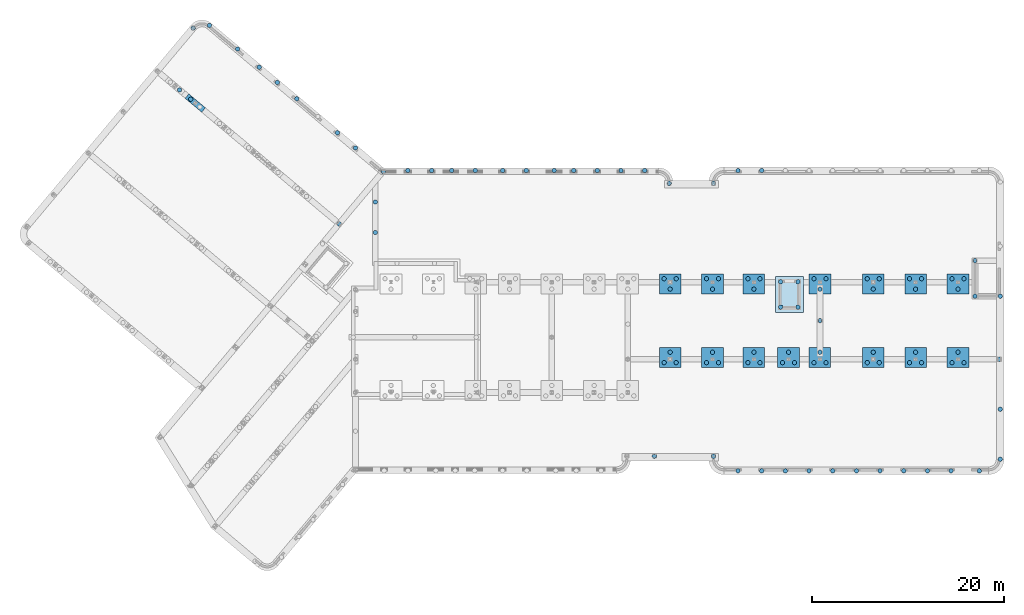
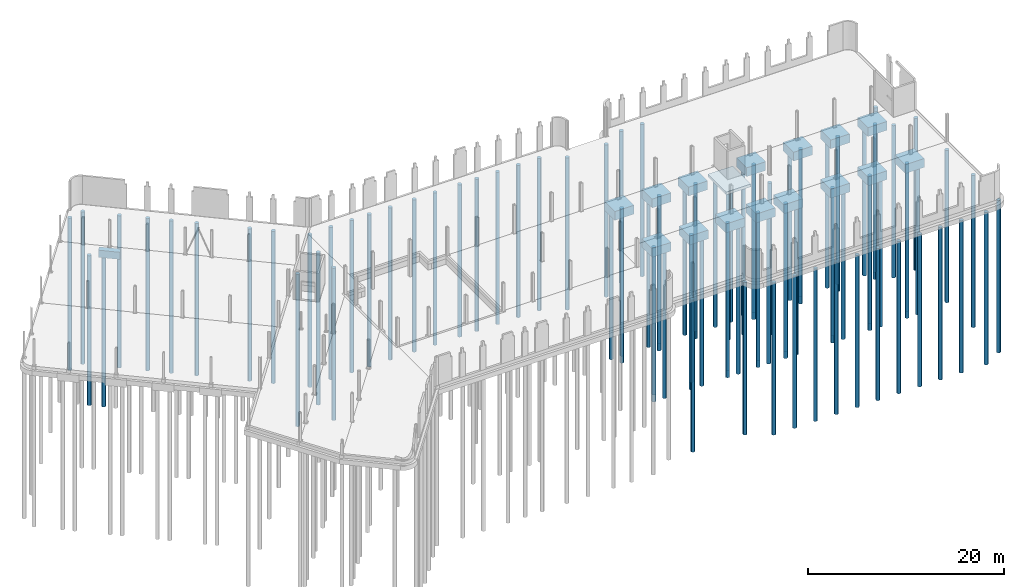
# One storey, part 3 of 26: 98 piles, 17 footings.
"""IFC2X3 building model written with IfcOpenShell, lengths in millimetres."""

from ifc_helpers import new_model, entity, si_unit, converted_unit, derived_unit, direction, frame, frame_2d, origin, origin_2d_with_axis, place, context, subcontext, project, spatial, rectangle, circle, extrude, source, transform, mapped, material, layer, layer_set, layer_usage, type_object, type_shapes, element, save


model = new_model("IFC2X3")

# Units and contexts
model_context = context("Model", 3, precision=0.01, world=origin(), true_north=direction((6.123031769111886e-17, 1.0)))
body_context = subcontext(model_context, "Body", "Model", "MODEL_VIEW")
ifc_project = project(units=[si_unit("LENGTHUNIT", "METRE", prefix="MILLI"), si_unit("AREAUNIT", "SQUARE_METRE"), si_unit("VOLUMEUNIT", "CUBIC_METRE"), derived_unit("MASSDENSITYUNIT", [(si_unit("MASSUNIT", "GRAM", prefix="KILO"), 1), (si_unit("LENGTHUNIT", "METRE"), -3)]), si_unit("MASSUNIT", "GRAM", prefix="KILO"), converted_unit("PLANEANGLEUNIT", "DEGREE", entity("IfcPlaneAngleMeasure", 0.017453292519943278), si_unit("PLANEANGLEUNIT", "RADIAN"), dimensions=[0, 0, 0, 0, 0, 0, 0])], contexts=[model_context])

# Site, building, storey
site_placement = place(None, origin())
site = spatial("IfcSite", under=ifc_project, at=site_placement, Name="Default", CompositionType="ELEMENT")
building_placement = place(site_placement, origin())
building = spatial("IfcBuilding", under=site, at=building_placement, Name="AT constructie", CompositionType="ELEMENT")
storey_placement = place(building_placement, origin())
storey = spatial("IfcBuildingStorey", under=building, at=storey_placement, Name="00 begane grond", CompositionType="ELEMENT", Elevation=-1.0828671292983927e-12)

# Footings
ifc_material_1 = material(Name="f2_beton ihwg_gen")
ifc_layer = layer(ifc_material_1, 350.0)
ifc_layer_set = layer_set([ifc_layer], Name="Foundation Slab:NLRS_13_SFO_fundatievloer_350_gen_AT")
ifc_layer_usage = layer_usage(ifc_layer_set, "AXIS3", "POSITIVE", 0.0)
type_product_1 = type_object("IfcTypeProduct", Name="NLRS_13_SFO_fundatievloer_350_gen_AT", material=ifc_layer_set)
footing_1_placement = place(storey_placement, origin())
element("IfcFooting", 1, at=footing_1_placement, inside=storey, type_object=type_product_1, material=ifc_layer_usage, Name="Foundation Slab:NLRS_13_SFO_fundatievloer_350_gen_AT", ObjectType="Foundation Slab:NLRS_13_SFO_fundatievloer_350_gen_AT", PredefinedType="NOTDEFINED", context=body_context, shape_type="SweptSolid", body=[
    extrude(rectangle(XDim=3722.0000000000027, YDim=2899.999999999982, at=frame_2d((-4.320099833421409e-12, -8.640199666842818e-12), x_axis=(1.0, 0.0))), frame((86230.87463111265, 29996.043508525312, -1200.0), z_axis=(0.0, 0.0, -1.0), x_axis=(0.0, 1.0, 0.0)), (0.0, 0.0, 1.0), 350.0),
])
type_product_2 = type_object("IfcTypeProduct", Name="fundatiepoer_gen_lxbxh 2250x600x900", material=ifc_material_1)
shared_shape_1 = source(origin(), body_context, "Body", "SweptSolid", [
    extrude(rectangle(XDim=599.9999999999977, YDim=2249.999999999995, at=frame_2d((-1.3926637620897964e-12, 1.7053025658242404e-12), x_axis=(1.0, 0.0))), frame((24509.580937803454, 49879.84254117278, -1350.0), z_axis=(0.0, 0.0, 1.0), x_axis=(-0.6427876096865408, -0.7660444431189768, 0.0)), (0.0, 0.0, 1.0), 899.9999999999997),
])
type_shapes(type_product_2, [shared_shape_1])
footing_2_placement = place(storey_placement, origin())
element("IfcFooting", 2, at=footing_2_placement, inside=storey, type_object=type_product_2, material=ifc_material_1, Name="NLRS_16_SFO_fundatiepoer_gen_AT:fundatiepoer_gen_lxbxh 2250x600x900", ObjectType="NLRS_16_SFO_fundatiepoer_gen_AT:fundatiepoer_gen_lxbxh 2250x600x900", PredefinedType="NOTDEFINED", context=body_context, shape_type="MappedRepresentation", body=[
    mapped(shared_shape_1, transform((0.0, 0.0, 0.0), scale=1.0)),
])
type_product_3 = type_object("IfcTypeProduct", Name="fundatiepoer_gen_lxbxh 2250x2100x1100", material=ifc_material_1)
shared_shape_2 = source(origin(), body_context, "Body", "SweptSolid", [
    extrude(rectangle(XDim=2249.9999999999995, YDim=2099.999999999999, at=frame_2d((4.320099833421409e-12, 0.0), x_axis=(1.0, 0.0))), frame((73846.87463111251, 31081.88742676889, -1650.0), z_axis=(0.0, 0.0, 1.0), x_axis=(-1.0, 0.0, 0.0)), (0.0, 0.0, 1.0), 1100.0),
])
type_shapes(type_product_3, [shared_shape_2])
footing_3_placement = place(storey_placement, origin())
element("IfcFooting", 3, at=footing_3_placement, inside=storey, type_object=type_product_3, material=ifc_material_1, Name="NLRS_16_SFO_fundatiepoer_gen_AT:fundatiepoer_gen_lxbxh 2250x2100x1100", ObjectType="NLRS_16_SFO_fundatiepoer_gen_AT:fundatiepoer_gen_lxbxh 2250x2100x1100", PredefinedType="NOTDEFINED", context=body_context, shape_type="MappedRepresentation", body=[
    mapped(shared_shape_2, transform((0.0, 0.0, 0.0), scale=1.0)),
])

# Piles
ifc_material_2 = material(Name="f2_beton ihwg_C30/37")
type_product_4 = type_object("IfcTypeProduct", Name="Type 4_a-3", material=ifc_material_2)
shared_shape_3 = source(origin(), body_context, "Body", "SweptSolid", [
    extrude(circle(Radius=225.00000000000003, at=frame_2d((1.4426688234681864e-26, -3.634975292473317e-13), x_axis=(1.0, 0.0))), frame((0.0, 0.0, -18420.0)), (0.0, 0.0, 1.0), 18419.999999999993),
])
type_shapes(type_product_4, [shared_shape_3])
for number, where, name in (
    (4, (74471.87463111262, 31631.88742676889, -1630.0), "NLRS_17_SFO_fundatiepaal_rond_gen_AT:Type 4_a-3"),
    (5, (73221.87463111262, 31631.887426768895, -1630.0), "NLRS_17_SFO_fundatiepaal_rond_gen_AT:Type 4_a-3"),
    (6, (73846.8746311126, 30549.355672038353, -1630.0), "NLRS_17_SFO_fundatiepaal_rond_gen_AT:Type 4_a-3"),
    (7, (78871.8746311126, 31631.887426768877, -1630.0), "NLRS_17_SFO_fundatiepaal_rond_gen_AT:Type 4_a-3"),
    (8, (77621.87463111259, 31631.88742676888, -1630.0), "NLRS_17_SFO_fundatiepaal_rond_gen_AT:Type 4_a-3"),
    (9, (83171.87463111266, 31631.887426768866, -1630.0), "NLRS_17_SFO_fundatiepaal_rond_gen_AT:Type 4_a-3"),
    (10, (81921.87463111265, 31631.88742676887, -1630.0), "NLRS_17_SFO_fundatiepaal_rond_gen_AT:Type 4_a-3"),
    (11, (78246.87463111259, 30549.35567203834, -1630.0), "NLRS_17_SFO_fundatiepaal_rond_gen_AT:Type 4_a-3"),
    (12, (82546.87463111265, 30549.355672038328, -1630.0), "NLRS_17_SFO_fundatiepaal_rond_gen_AT:Type 4_a-3"),
    (13, (90037.37463111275, 31631.887426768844, -1630.0), "NLRS_17_SFO_fundatiepaal_rond_gen_AT:Type 4_a-3"),
    (14, (88787.37463111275, 31631.887426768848, -1630.0), "NLRS_17_SFO_fundatiepaal_rond_gen_AT:Type 4_a-3"),
    (15, (89412.37463111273, 30549.355672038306, -1630.0), "NLRS_17_SFO_fundatiepaal_rond_gen_AT:Type 4_a-3"),
    (16, (95571.87463111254, 31631.887426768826, -1630.0), "NLRS_17_SFO_fundatiepaal_rond_gen_AT:Type 4_a-3"),
    (17, (94321.87463111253, 31631.88742676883, -1630.0), "NLRS_17_SFO_fundatiepaal_rond_gen_AT:Type 4_a-3"),
    (18, (94946.87463111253, 30549.355672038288, -1630.0), "NLRS_17_SFO_fundatiepaal_rond_gen_AT:Type 4_a-3"),
    (19, (99971.87463111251, 31631.88742676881, -1630.0), "NLRS_17_SFO_fundatiepaal_rond_gen_AT:Type 4_a-3"),
    (20, (98721.8746311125, 31631.88742676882, -1630.0), "NLRS_17_SFO_fundatiepaal_rond_gen_AT:Type 4_a-3"),
    (21, (99346.8746311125, 30549.355672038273, -1630.0), "NLRS_17_SFO_fundatiepaal_rond_gen_AT:Type 4_a-3"),
    (22, (104371.8746311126, 31631.8874267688, -1630.0), "NLRS_17_SFO_fundatiepaal_rond_gen_AT:Type 4_a-3"),
    (23, (103121.87463111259, 31631.887426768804, -1630.0), "NLRS_17_SFO_fundatiepaal_rond_gen_AT:Type 4_a-3"),
    (24, (103746.87463111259, 30549.355672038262, -1630.0), "NLRS_17_SFO_fundatiepaal_rond_gen_AT:Type 4_a-3"),
):
    element("IfcPile", number, at=place(storey_placement, frame(where)), inside=storey, type_object=type_product_4, material=ifc_material_2, Name=name, ObjectType="NLRS_17_SFO_fundatiepaal_rond_gen_AT:Type 4_a-3", PredefinedType="NOTDEFINED", context=body_context, shape_type="MappedRepresentation", body=[
        mapped(shared_shape_3, transform((0.0, 0.0, 0.0), scale=1.0)),
    ])
for number, where, z_axis, x_axis, name in (
    (25, (103121.87463111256, 22910.199590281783, -1630.0), (0.0, 0.0, 1.0), (-1.0, 0.0, 0.0), "NLRS_17_SFO_fundatiepaal_rond_gen_AT:Type 4_a-3"),
    (26, (104371.87463111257, 22910.19959028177, -1630.0), (0.0, 0.0, 1.0), (-1.0, 0.0, 0.0), "NLRS_17_SFO_fundatiepaal_rond_gen_AT:Type 4_a-3"),
    (27, (103746.87463111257, 23992.731345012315, -1630.0), (0.0, 0.0, 1.0), (-1.0, 0.0, 0.0), "NLRS_17_SFO_fundatiepaal_rond_gen_AT:Type 4_a-3"),
    (28, (98721.87463111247, 22910.199590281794, -1630.0), (0.0, 0.0, 1.0), (-1.0, 0.0, 0.0), "NLRS_17_SFO_fundatiepaal_rond_gen_AT:Type 4_a-3"),
    (29, (99971.87463111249, 22910.199590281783, -1630.0), (0.0, 0.0, 1.0), (-1.0, 0.0, 0.0), "NLRS_17_SFO_fundatiepaal_rond_gen_AT:Type 4_a-3"),
    (30, (99346.87463111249, 23992.73134501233, -1630.0), (0.0, 0.0, 1.0), (-1.0, 0.0, 0.0), "NLRS_17_SFO_fundatiepaal_rond_gen_AT:Type 4_a-3"),
    (31, (94321.8746311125, 22910.19959028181, -1630.0), (0.0, 0.0, 1.0), (-1.0, 0.0, 0.0), "NLRS_17_SFO_fundatiepaal_rond_gen_AT:Type 4_a-3"),
    (32, (95571.87463111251, 22910.199590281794, -1630.0), (0.0, 0.0, 1.0), (-1.0, 0.0, 0.0), "NLRS_17_SFO_fundatiepaal_rond_gen_AT:Type 4_a-3"),
    (33, (94946.87463111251, 23992.731345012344, -1630.0), (0.0, 0.0, 1.0), (-1.0, 0.0, 0.0), "NLRS_17_SFO_fundatiepaal_rond_gen_AT:Type 4_a-3"),
    (34, (88782.37463111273, 22910.199590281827, -1630.0), (0.0, 0.0, 1.0), (-1.0, 0.0, 0.0), "NLRS_17_SFO_fundatiepaal_rond_gen_AT:Type 4_a-3"),
    (35, (90032.37463111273, 22910.199590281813, -1630.0), (0.0, 0.0, 1.0), (-1.0, 0.0, 0.0), "NLRS_17_SFO_fundatiepaal_rond_gen_AT:Type 4_a-3"),
    (36, (89407.37463111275, 23992.73134501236, -1630.0), (0.0, 0.0, 1.0), (-1.0, 0.0, 0.0), "NLRS_17_SFO_fundatiepaal_rond_gen_AT:Type 4_a-3"),
    (37, (85521.87463111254, 22910.199590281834, -1630.0), (0.0, 0.0, 1.0), (-1.0, 0.0, 0.0), "NLRS_17_SFO_fundatiepaal_rond_gen_AT:Type 4_a-3"),
    (38, (86771.87463111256, 22910.19959028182, -1630.0), (0.0, 0.0, 1.0), (-1.0, 0.0, 0.0), "NLRS_17_SFO_fundatiepaal_rond_gen_AT:Type 4_a-3"),
    (39, (86146.87463111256, 23992.73134501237, -1630.0), (0.0, 0.0, 1.0), (-1.0, 0.0, 0.0), "NLRS_17_SFO_fundatiepaal_rond_gen_AT:Type 4_a-3"),
    (40, (81921.8746311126, 22910.19959028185, -1630.0), (0.0, 0.0, 1.0), (-1.0, 0.0, 0.0), "NLRS_17_SFO_fundatiepaal_rond_gen_AT:Type 4_a-3"),
    (41, (83171.8746311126, 22910.199590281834, -1630.0), (0.0, 0.0, 1.0), (-1.0, 0.0, 0.0), "NLRS_17_SFO_fundatiepaal_rond_gen_AT:Type 4_a-3"),
    (42, (82546.87463111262, 23992.73134501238, -1630.0), (0.0, 0.0, 1.0), (-1.0, 0.0, 0.0), "NLRS_17_SFO_fundatiepaal_rond_gen_AT:Type 4_a-3"),
    (43, (77621.87463111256, 22910.19959028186, -1630.0), (0.0, 0.0, 1.0), (-1.0, 0.0, 0.0), "NLRS_17_SFO_fundatiepaal_rond_gen_AT:Type 4_a-3"),
    (44, (78871.87463111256, 22910.19959028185, -1630.0), (0.0, 0.0, 1.0), (-1.0, 0.0, 0.0), "NLRS_17_SFO_fundatiepaal_rond_gen_AT:Type 4_a-3"),
    (45, (78246.87463111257, 23992.731345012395, -1630.0), (0.0, 0.0, 1.0), (-1.0, 0.0, 0.0), "NLRS_17_SFO_fundatiepaal_rond_gen_AT:Type 4_a-3"),
    (46, (73221.87463111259, 22910.199590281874, -1630.0), (0.0, 0.0, 1.0), (-1.0, 0.0, 0.0), "NLRS_17_SFO_fundatiepaal_rond_gen_AT:Type 4_a-3"),
    (47, (74471.87463111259, 22910.19959028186, -1630.0), (0.0, 0.0, 1.0), (-1.0, 0.0, 0.0), "NLRS_17_SFO_fundatiepaal_rond_gen_AT:Type 4_a-3"),
    (48, (73846.8746311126, 23992.731345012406, -1630.0), (0.0, 0.0, 1.0), (-1.0, 0.0, 0.0), "NLRS_17_SFO_fundatiepaal_rond_gen_AT:Type 4_a-3"),
):
    element("IfcPile", number, at=place(storey_placement, frame(where, z_axis=z_axis, x_axis=x_axis)), inside=storey, type_object=type_product_4, material=ifc_material_2, Name=name, ObjectType="NLRS_17_SFO_fundatiepaal_rond_gen_AT:Type 4_a-3", PredefinedType="NOTDEFINED", context=body_context, shape_type="MappedRepresentation", body=[
        mapped(shared_shape_3, transform((0.0, 0.0, 0.0), scale=1.0)),
    ])

# Footings
type_product_5 = type_object("IfcTypeProduct", Name="fundatiepoer_gen_lxbxh 2250x2100x1100", material=ifc_material_1)
shared_shape_4 = source(origin(), body_context, "Body", "SweptSolid", [
    extrude(rectangle(XDim=2250.000000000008, YDim=2099.999999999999, at=frame_2d((0.0, -4.320099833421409e-12), x_axis=(1.0, 0.0))), frame((78246.87463111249, 31081.887426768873, -1650.0), z_axis=(0.0, 0.0, 1.0), x_axis=(-1.0, 0.0, 0.0)), (0.0, 0.0, 1.0), 1100.0),
])
type_shapes(type_product_5, [shared_shape_4])
footing_4_placement = place(storey_placement, origin())
element("IfcFooting", 49, at=footing_4_placement, inside=storey, type_object=type_product_5, material=ifc_material_1, Name="NLRS_16_SFO_fundatiepoer_gen_AT:fundatiepoer_gen_lxbxh 2250x2100x1100", ObjectType="NLRS_16_SFO_fundatiepoer_gen_AT:fundatiepoer_gen_lxbxh 2250x2100x1100", PredefinedType="NOTDEFINED", context=body_context, shape_type="MappedRepresentation", body=[
    mapped(shared_shape_4, transform((0.0, 0.0, 0.0), scale=1.0)),
])
type_product_6 = type_object("IfcTypeProduct", Name="fundatiepoer_gen_lxbxh 2250x2100x1100", material=ifc_material_1)
shared_shape_5 = source(origin(), body_context, "Body", "SweptSolid", [
    extrude(rectangle(XDim=2250.000000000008, YDim=2099.999999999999, at=origin_2d_with_axis()), frame((82546.87463111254, 31081.887426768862, -1650.0), z_axis=(0.0, 0.0, 1.0), x_axis=(-1.0, 0.0, 0.0)), (0.0, 0.0, 1.0), 1100.0000000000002),
])
type_shapes(type_product_6, [shared_shape_5])
footing_5_placement = place(storey_placement, origin())
element("IfcFooting", 50, at=footing_5_placement, inside=storey, type_object=type_product_6, material=ifc_material_1, Name="NLRS_16_SFO_fundatiepoer_gen_AT:fundatiepoer_gen_lxbxh 2250x2100x1100", ObjectType="NLRS_16_SFO_fundatiepoer_gen_AT:fundatiepoer_gen_lxbxh 2250x2100x1100", PredefinedType="NOTDEFINED", context=body_context, shape_type="MappedRepresentation", body=[
    mapped(shared_shape_5, transform((0.0, 0.0, 0.0), scale=1.0)),
])
type_product_7 = type_object("IfcTypeProduct", Name="fundatiepoer_gen_lxbxh 2250x2100x1100", material=ifc_material_1)
shared_shape_6 = source(origin(), body_context, "Body", "SweptSolid", [
    extrude(rectangle(XDim=2250.000000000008, YDim=2099.999999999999, at=frame_2d((0.0, -4.320099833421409e-12), x_axis=(1.0, 0.0))), frame((89412.37463111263, 31081.887426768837, -1650.0), z_axis=(0.0, 0.0, 1.0), x_axis=(-1.0, 0.0, 0.0)), (0.0, 0.0, 1.0), 1100.0),
])
type_shapes(type_product_7, [shared_shape_6])
footing_6_placement = place(storey_placement, origin())
element("IfcFooting", 51, at=footing_6_placement, inside=storey, type_object=type_product_7, material=ifc_material_1, Name="NLRS_16_SFO_fundatiepoer_gen_AT:fundatiepoer_gen_lxbxh 2250x2100x1100", ObjectType="NLRS_16_SFO_fundatiepoer_gen_AT:fundatiepoer_gen_lxbxh 2250x2100x1100", PredefinedType="NOTDEFINED", context=body_context, shape_type="MappedRepresentation", body=[
    mapped(shared_shape_6, transform((0.0, 0.0, 0.0), scale=1.0)),
])
type_product_8 = type_object("IfcTypeProduct", Name="fundatiepoer_gen_lxbxh 2250x2100x1100", material=ifc_material_1)
shared_shape_7 = source(origin(), body_context, "Body", "SweptSolid", [
    extrude(rectangle(XDim=2250.000000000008, YDim=2099.999999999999, at=frame_2d((0.0, 4.320099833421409e-12), x_axis=(1.0, 0.0))), frame((94946.87463111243, 31081.88742676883, -1650.0), z_axis=(0.0, 0.0, 1.0), x_axis=(-1.0, 0.0, 0.0)), (0.0, 0.0, 1.0), 1100.0),
])
type_shapes(type_product_8, [shared_shape_7])
footing_7_placement = place(storey_placement, origin())
element("IfcFooting", 52, at=footing_7_placement, inside=storey, type_object=type_product_8, material=ifc_material_1, Name="NLRS_16_SFO_fundatiepoer_gen_AT:fundatiepoer_gen_lxbxh 2250x2100x1100", ObjectType="NLRS_16_SFO_fundatiepoer_gen_AT:fundatiepoer_gen_lxbxh 2250x2100x1100", PredefinedType="NOTDEFINED", context=body_context, shape_type="MappedRepresentation", body=[
    mapped(shared_shape_7, transform((0.0, 0.0, 0.0), scale=1.0)),
])
type_product_9 = type_object("IfcTypeProduct", Name="fundatiepoer_gen_lxbxh 2250x2100x1100", material=ifc_material_1)
shared_shape_8 = source(origin(), body_context, "Body", "SweptSolid", [
    extrude(rectangle(XDim=2250.000000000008, YDim=2099.999999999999, at=origin_2d_with_axis()), frame((99346.8746311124, 31081.88742676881, -1650.0), z_axis=(0.0, 0.0, 1.0), x_axis=(-1.0, 0.0, 0.0)), (0.0, 0.0, 1.0), 1100.0),
])
type_shapes(type_product_9, [shared_shape_8])
footing_8_placement = place(storey_placement, origin())
element("IfcFooting", 53, at=footing_8_placement, inside=storey, type_object=type_product_9, material=ifc_material_1, Name="NLRS_16_SFO_fundatiepoer_gen_AT:fundatiepoer_gen_lxbxh 2250x2100x1100", ObjectType="NLRS_16_SFO_fundatiepoer_gen_AT:fundatiepoer_gen_lxbxh 2250x2100x1100", PredefinedType="NOTDEFINED", context=body_context, shape_type="MappedRepresentation", body=[
    mapped(shared_shape_8, transform((0.0, 0.0, 0.0), scale=1.0)),
])
type_product_10 = type_object("IfcTypeProduct", Name="fundatiepoer_gen_lxbxh 2250x2100x1100", material=ifc_material_1)
shared_shape_9 = source(origin(), body_context, "Body", "SweptSolid", [
    extrude(rectangle(XDim=2250.000000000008, YDim=2099.999999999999, at=origin_2d_with_axis()), frame((103746.87463111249, 31081.8874267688, -1650.0), z_axis=(0.0, 0.0, 1.0), x_axis=(-1.0, 0.0, 0.0)), (0.0, 0.0, 1.0), 1100.0),
])
type_shapes(type_product_10, [shared_shape_9])
footing_9_placement = place(storey_placement, origin())
element("IfcFooting", 54, at=footing_9_placement, inside=storey, type_object=type_product_10, material=ifc_material_1, Name="NLRS_16_SFO_fundatiepoer_gen_AT:fundatiepoer_gen_lxbxh 2250x2100x1100", ObjectType="NLRS_16_SFO_fundatiepoer_gen_AT:fundatiepoer_gen_lxbxh 2250x2100x1100", PredefinedType="NOTDEFINED", context=body_context, shape_type="MappedRepresentation", body=[
    mapped(shared_shape_9, transform((0.0, 0.0, 0.0), scale=1.0)),
])
type_product_11 = type_object("IfcTypeProduct", Name="fundatiepoer_gen_lxbxh 2250x2100x1100", material=ifc_material_1)
shared_shape_10 = source(origin(), body_context, "Body", "SweptSolid", [
    extrude(rectangle(XDim=2250.000000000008, YDim=2099.999999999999, at=frame_2d((-8.753886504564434e-12, 0.0), x_axis=(1.0, 0.0))), frame((103746.87463111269, 23460.19959028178, -1650.0)), (0.0, 0.0, 1.0), 1100.0),
])
type_shapes(type_product_11, [shared_shape_10])
footing_10_placement = place(storey_placement, origin())
element("IfcFooting", 55, at=footing_10_placement, inside=storey, type_object=type_product_11, material=ifc_material_1, Name="NLRS_16_SFO_fundatiepoer_gen_AT:fundatiepoer_gen_lxbxh 2250x2100x1100", ObjectType="NLRS_16_SFO_fundatiepoer_gen_AT:fundatiepoer_gen_lxbxh 2250x2100x1100", PredefinedType="NOTDEFINED", context=body_context, shape_type="MappedRepresentation", body=[
    mapped(shared_shape_10, transform((0.0, 0.0, 0.0), scale=1.0)),
])
type_product_12 = type_object("IfcTypeProduct", Name="fundatiepoer_gen_lxbxh 2250x2100x1100", material=ifc_material_1)
shared_shape_11 = source(origin(), body_context, "Body", "SweptSolid", [
    extrude(rectangle(XDim=2250.000000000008, YDim=2099.999999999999, at=frame_2d((-8.753886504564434e-12, 0.0), x_axis=(1.0, 0.0))), frame((99346.8746311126, 23460.19959028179, -1650.0)), (0.0, 0.0, 1.0), 1100.0),
])
type_shapes(type_product_12, [shared_shape_11])
footing_11_placement = place(storey_placement, origin())
element("IfcFooting", 56, at=footing_11_placement, inside=storey, type_object=type_product_12, material=ifc_material_1, Name="NLRS_16_SFO_fundatiepoer_gen_AT:fundatiepoer_gen_lxbxh 2250x2100x1100", ObjectType="NLRS_16_SFO_fundatiepoer_gen_AT:fundatiepoer_gen_lxbxh 2250x2100x1100", PredefinedType="NOTDEFINED", context=body_context, shape_type="MappedRepresentation", body=[
    mapped(shared_shape_11, transform((0.0, 0.0, 0.0), scale=1.0)),
])
type_product_13 = type_object("IfcTypeProduct", Name="fundatiepoer_gen_lxbxh 2250x2100x1100", material=ifc_material_1)
shared_shape_12 = source(origin(), body_context, "Body", "SweptSolid", [
    extrude(rectangle(XDim=2250.000000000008, YDim=2099.999999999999, at=frame_2d((-8.753886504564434e-12, 0.0), x_axis=(1.0, 0.0))), frame((94946.87463111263, 23460.199590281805, -1650.0)), (0.0, 0.0, 1.0), 1100.0),
])
type_shapes(type_product_13, [shared_shape_12])
footing_12_placement = place(storey_placement, origin())
element("IfcFooting", 57, at=footing_12_placement, inside=storey, type_object=type_product_13, material=ifc_material_1, Name="NLRS_16_SFO_fundatiepoer_gen_AT:fundatiepoer_gen_lxbxh 2250x2100x1100", ObjectType="NLRS_16_SFO_fundatiepoer_gen_AT:fundatiepoer_gen_lxbxh 2250x2100x1100", PredefinedType="NOTDEFINED", context=body_context, shape_type="MappedRepresentation", body=[
    mapped(shared_shape_12, transform((0.0, 0.0, 0.0), scale=1.0)),
])
type_product_14 = type_object("IfcTypeProduct", Name="fundatiepoer_gen_lxbxh 2250x2100x1100", material=ifc_material_1)
shared_shape_13 = source(origin(), body_context, "Body", "SweptSolid", [
    extrude(rectangle(XDim=2250.000000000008, YDim=2099.999999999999, at=frame_2d((-8.753886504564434e-12, 0.0), x_axis=(1.0, 0.0))), frame((89407.37463111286, 23460.199590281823, -1650.0)), (0.0, 0.0, 1.0), 1100.0),
])
type_shapes(type_product_14, [shared_shape_13])
footing_13_placement = place(storey_placement, origin())
element("IfcFooting", 58, at=footing_13_placement, inside=storey, type_object=type_product_14, material=ifc_material_1, Name="NLRS_16_SFO_fundatiepoer_gen_AT:fundatiepoer_gen_lxbxh 2250x2100x1100", ObjectType="NLRS_16_SFO_fundatiepoer_gen_AT:fundatiepoer_gen_lxbxh 2250x2100x1100", PredefinedType="NOTDEFINED", context=body_context, shape_type="MappedRepresentation", body=[
    mapped(shared_shape_13, transform((0.0, 0.0, 0.0), scale=1.0)),
])
type_product_15 = type_object("IfcTypeProduct", Name="fundatiepoer_gen_lxbxh 2250x2100x1100", material=ifc_material_1)
shared_shape_14 = source(origin(), body_context, "Body", "SweptSolid", [
    extrude(rectangle(XDim=2250.000000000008, YDim=2099.999999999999, at=frame_2d((-8.753886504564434e-12, 0.0), x_axis=(1.0, 0.0))), frame((86146.87463111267, 23460.19959028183, -1650.0)), (0.0, 0.0, 1.0), 1100.0),
])
type_shapes(type_product_15, [shared_shape_14])
footing_14_placement = place(storey_placement, origin())
element("IfcFooting", 59, at=footing_14_placement, inside=storey, type_object=type_product_15, material=ifc_material_1, Name="NLRS_16_SFO_fundatiepoer_gen_AT:fundatiepoer_gen_lxbxh 2250x2100x1100", ObjectType="NLRS_16_SFO_fundatiepoer_gen_AT:fundatiepoer_gen_lxbxh 2250x2100x1100", PredefinedType="NOTDEFINED", context=body_context, shape_type="MappedRepresentation", body=[
    mapped(shared_shape_14, transform((0.0, 0.0, 0.0), scale=1.0)),
])
type_product_16 = type_object("IfcTypeProduct", Name="fundatiepoer_gen_lxbxh 2250x2100x1100", material=ifc_material_1)
shared_shape_15 = source(origin(), body_context, "Body", "SweptSolid", [
    extrude(rectangle(XDim=2250.000000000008, YDim=2099.999999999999, at=frame_2d((-8.753886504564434e-12, 0.0), x_axis=(1.0, 0.0))), frame((82546.87463111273, 23460.199590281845, -1650.0)), (0.0, 0.0, 1.0), 1100.0),
])
type_shapes(type_product_16, [shared_shape_15])
footing_15_placement = place(storey_placement, origin())
element("IfcFooting", 60, at=footing_15_placement, inside=storey, type_object=type_product_16, material=ifc_material_1, Name="NLRS_16_SFO_fundatiepoer_gen_AT:fundatiepoer_gen_lxbxh 2250x2100x1100", ObjectType="NLRS_16_SFO_fundatiepoer_gen_AT:fundatiepoer_gen_lxbxh 2250x2100x1100", PredefinedType="NOTDEFINED", context=body_context, shape_type="MappedRepresentation", body=[
    mapped(shared_shape_15, transform((0.0, 0.0, 0.0), scale=1.0)),
])
type_product_17 = type_object("IfcTypeProduct", Name="fundatiepoer_gen_lxbxh 2250x2100x1100", material=ifc_material_1)
shared_shape_16 = source(origin(), body_context, "Body", "SweptSolid", [
    extrude(rectangle(XDim=2250.0, YDim=2099.999999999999, at=frame_2d((-4.433786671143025e-12, 0.0), x_axis=(1.0, 0.0))), frame((78246.87463111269, 23460.199590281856, -1650.0)), (0.0, 0.0, 1.0), 1100.0),
])
type_shapes(type_product_17, [shared_shape_16])
footing_16_placement = place(storey_placement, origin())
element("IfcFooting", 61, at=footing_16_placement, inside=storey, type_object=type_product_17, material=ifc_material_1, Name="NLRS_16_SFO_fundatiepoer_gen_AT:fundatiepoer_gen_lxbxh 2250x2100x1100", ObjectType="NLRS_16_SFO_fundatiepoer_gen_AT:fundatiepoer_gen_lxbxh 2250x2100x1100", PredefinedType="NOTDEFINED", context=body_context, shape_type="MappedRepresentation", body=[
    mapped(shared_shape_16, transform((0.0, 0.0, 0.0), scale=1.0)),
])
type_product_18 = type_object("IfcTypeProduct", Name="fundatiepoer_gen_lxbxh 2250x2100x1100", material=ifc_material_1)
shared_shape_17 = source(origin(), body_context, "Body", "SweptSolid", [
    extrude(rectangle(XDim=2250.0, YDim=2099.999999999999, at=frame_2d((-4.433786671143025e-12, 0.0), x_axis=(1.0, 0.0))), frame((73846.8746311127, 23460.19959028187, -1650.0)), (0.0, 0.0, 1.0), 1100.0),
])
type_shapes(type_product_18, [shared_shape_17])
footing_17_placement = place(storey_placement, origin())
element("IfcFooting", 62, at=footing_17_placement, inside=storey, type_object=type_product_18, material=ifc_material_1, Name="NLRS_16_SFO_fundatiepoer_gen_AT:fundatiepoer_gen_lxbxh 2250x2100x1100", ObjectType="NLRS_16_SFO_fundatiepoer_gen_AT:fundatiepoer_gen_lxbxh 2250x2100x1100", PredefinedType="NOTDEFINED", context=body_context, shape_type="MappedRepresentation", body=[
    mapped(shared_shape_17, transform((0.0, 0.0, 0.0), scale=1.0)),
])

# Piles
type_product_19 = type_object("IfcTypeProduct", Name="Type 4_a-4", material=ifc_material_2)
shared_shape_18 = source(origin(), body_context, "Body", "SweptSolid", [
    extrude(circle(Radius=225.00000000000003, at=frame_2d((1.4426688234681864e-26, -3.634975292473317e-13), x_axis=(1.0, 0.0))), frame((0.0, 0.0, -18520.0)), (0.0, 0.0, 1.0), 18519.999999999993),
])
type_shapes(type_product_19, [shared_shape_18])
for number, where, name in (
    (63, (85323.87463111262, 31314.043508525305, -1530.0), "NLRS_17_SFO_fundatiepaal_rond_gen_AT:Type 4_a-4"),
    (64, (87137.87463111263, 31314.043508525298, -1530.0), "NLRS_17_SFO_fundatiepaal_rond_gen_AT:Type 4_a-4"),
    (65, (87137.87463111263, 28678.043508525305, -1530.0), "NLRS_17_SFO_fundatiepaal_rond_gen_AT:Type 4_a-4"),
    (66, (85323.87463111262, 28678.04350852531, -1530.0), "NLRS_17_SFO_fundatiepaal_rond_gen_AT:Type 4_a-4"),
):
    element("IfcPile", number, at=place(storey_placement, frame(where)), inside=storey, type_object=type_product_19, material=ifc_material_2, Name=name, ObjectType="NLRS_17_SFO_fundatiepaal_rond_gen_AT:Type 4_a-4", PredefinedType="NOTDEFINED", context=body_context, shape_type="MappedRepresentation", body=[
        mapped(shared_shape_18, transform((0.0, 0.0, 0.0), scale=1.0)),
    ])
type_product_20 = type_object("IfcTypeProduct", Name="Type 4_a-6", material=ifc_material_2)
shared_shape_19 = source(origin(), body_context, "Body", "SweptSolid", [
    extrude(circle(Radius=225.00000000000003, at=frame_2d((1.4426688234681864e-26, -3.634975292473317e-13), x_axis=(1.0, 0.0))), frame((0.0, 0.0, -18720.0)), (0.0, 0.0, 1.0), 18719.999999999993),
])
type_shapes(type_product_20, [shared_shape_19])
for number, where, z_axis, x_axis, name in (
    (67, (24030.803160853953, 50281.584797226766, -1330.0), (0.0, 0.0, 1.0), (0.7660444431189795, -0.6427876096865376, 0.0), "NLRS_17_SFO_fundatiepaal_rond_gen_AT:Type 4_a-6"),
    (68, (22877.906273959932, 51248.98014980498, -1330.0), (0.0, 0.0, 1.0), (0.7660444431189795, -0.6427876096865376, 0.0), "NLRS_17_SFO_fundatiepaal_rond_gen_AT:Type 4_a-6"),
):
    element("IfcPile", number, at=place(storey_placement, frame(where, z_axis=z_axis, x_axis=x_axis)), inside=storey, type_object=type_product_20, material=ifc_material_2, Name=name, ObjectType="NLRS_17_SFO_fundatiepaal_rond_gen_AT:Type 4_a-6", PredefinedType="NOTDEFINED", context=body_context, shape_type="MappedRepresentation", body=[
        mapped(shared_shape_19, transform((0.0, 0.0, 0.0), scale=1.0)),
    ])
type_product_21 = type_object("IfcTypeProduct", Name="Type 4_a-7", material=ifc_material_2)
shared_shape_20 = source(origin(), body_context, "Body", "SweptSolid", [
    extrude(circle(Radius=225.00000000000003, at=frame_2d((1.4426688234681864e-26, -3.634975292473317e-13), x_axis=(1.0, 0.0))), frame((0.0, 0.0, -19020.0)), (0.0, 0.0, 1.0), 19019.999999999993),
])
type_shapes(type_product_21, [shared_shape_20])
for number, where, z_axis, x_axis, name in (
    (69, (89407.37463111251, 27271.04350852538, -1030.0), (0.0, 0.0, 1.0), (-1.0, 0.0, 0.0), "NLRS_17_SFO_fundatiepaal_rond_gen_AT:Type 4_a-7"),
    (70, (105520.37463489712, 33501.04350852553, -1030.0), (0.0, 0.0, 1.0), (-1.0, 0.0, 0.0), "NLRS_17_SFO_fundatiepaal_rond_gen_AT:Type 4_a-7"),
    (71, (105520.37463489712, 29814.043508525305, -1030.0), (0.0, 0.0, 1.0), (-1.0, 0.0, 0.0), "NLRS_17_SFO_fundatiepaal_rond_gen_AT:Type 4_a-7"),
    (72, (108146.87463111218, 29814.043508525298, -1030.0), (0.0, 0.0, 1.0), (-1.0, 0.0, 0.0), "NLRS_17_SFO_fundatiepaal_rond_gen_AT:Type 4_a-7"),
    (73, (83356.87463111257, 42871.04350852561, -1030.0), (0.0, 0.0, 1.0), (-1.0, 0.0, 0.0), "NLRS_17_SFO_fundatiepaal_rond_gen_AT:Type 4_a-7"),
    (74, (80896.87463111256, 42871.043508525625, -1030.0), (0.0, 0.0, 1.0), (-1.0, 0.0, 0.0), "NLRS_17_SFO_fundatiepaal_rond_gen_AT:Type 4_a-7"),
    (75, (108043.87463111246, 23271.04350852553, -1030.0), (0.0, 0.0, 1.0), (-1.0, 0.0, 0.0), "NLRS_17_SFO_fundatiepaal_rond_gen_AT:Type 4_a-7"),
    (76, (108146.87463111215, 12871.043508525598, -1030.0), (0.0, 0.0, 1.0), (-1.0, 0.0, 0.0), "NLRS_17_SFO_fundatiepaal_rond_gen_AT:Type 4_a-7"),
    (77, (105971.87463111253, 11671.043508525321, -1030.0), (0.0, 0.0, 1.0), (-1.0, 0.0, 0.0), "NLRS_17_SFO_fundatiepaal_rond_gen_AT:Type 4_a-7"),
    (78, (103036.87463111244, 11671.043508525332, -1030.0), (0.0, 0.0, 1.0), (-1.0, 0.0, 0.0), "NLRS_17_SFO_fundatiepaal_rond_gen_AT:Type 4_a-7"),
    (79, (100576.87463111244, 11671.04350852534, -1030.0), (0.0, 0.0, 1.0), (-1.0, 0.0, 0.0), "NLRS_17_SFO_fundatiepaal_rond_gen_AT:Type 4_a-7"),
    (80, (98116.87463111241, 11671.043508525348, -1030.0), (0.0, 0.0, 1.0), (-1.0, 0.0, 0.0), "NLRS_17_SFO_fundatiepaal_rond_gen_AT:Type 4_a-7"),
    (81, (95656.87463111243, 11671.043508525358, -1030.0), (0.0, 0.0, 1.0), (-1.0, 0.0, 0.0), "NLRS_17_SFO_fundatiepaal_rond_gen_AT:Type 4_a-7"),
    (82, (93196.8746311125, 11671.043508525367, -1030.0), (0.0, 0.0, 1.0), (-1.0, 0.0, 0.0), "NLRS_17_SFO_fundatiepaal_rond_gen_AT:Type 4_a-7"),
    (83, (90736.87463111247, 11671.043508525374, -1030.0), (0.0, 0.0, 1.0), (-1.0, 0.0, 0.0), "NLRS_17_SFO_fundatiepaal_rond_gen_AT:Type 4_a-7"),
    (84, (88276.87463111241, 11671.043508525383, -1030.0), (0.0, 0.0, 1.0), (-1.0, 0.0, 0.0), "NLRS_17_SFO_fundatiepaal_rond_gen_AT:Type 4_a-7"),
    (85, (85816.87463111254, 11671.043508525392, -1030.0), (0.0, 0.0, 1.0), (-1.0, 0.0, 0.0), "NLRS_17_SFO_fundatiepaal_rond_gen_AT:Type 4_a-7"),
    (86, (83356.87463111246, 11671.043508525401, -1030.0), (0.0, 0.0, 1.0), (-1.0, 0.0, 0.0), "NLRS_17_SFO_fundatiepaal_rond_gen_AT:Type 4_a-7"),
    (87, (80896.87463111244, 11671.043508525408, -1030.0), (0.0, 0.0, 1.0), (-1.0, 0.0, 0.0), "NLRS_17_SFO_fundatiepaal_rond_gen_AT:Type 4_a-7"),
    (88, (78348.37463291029, 13185.043511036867, -1030.0), (0.0, 0.0, 1.0), (-1.0, 0.0, 0.0), "NLRS_17_SFO_fundatiepaal_rond_gen_AT:Type 4_a-7"),
    (89, (72204.37460725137, 13185.043511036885, -1030.0), (0.0, 0.0, 1.0), (-1.0, 0.0, 0.0), "NLRS_17_SFO_fundatiepaal_rond_gen_AT:Type 4_a-7"),
    (90, (78348.37463291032, 41541.04350852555, -1030.0), (0.0, 0.0, 1.0), (-1.0, 0.0, 0.0), "NLRS_17_SFO_fundatiepaal_rond_gen_AT:Type 4_a-7"),
    (91, (73745.37463111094, 41541.04350852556, -1030.0), (0.0, 0.0, 1.0), (-1.0, 0.0, 0.0), "NLRS_17_SFO_fundatiepaal_rond_gen_AT:Type 4_a-7"),
    (92, (71196.87463111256, 42871.043508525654, -1030.0), (0.0, 0.0, 1.0), (-1.0, 0.0, 0.0), "NLRS_17_SFO_fundatiepaal_rond_gen_AT:Type 4_a-7"),
    (93, (68736.87463111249, 42871.04350852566, -1030.0), (0.0, 0.0, 1.0), (-1.0, 0.0, 0.0), "NLRS_17_SFO_fundatiepaal_rond_gen_AT:Type 4_a-7"),
    (94, (66276.8746311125, 42871.043508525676, -1030.0), (0.0, 0.0, 1.0), (-1.0, 0.0, 0.0), "NLRS_17_SFO_fundatiepaal_rond_gen_AT:Type 4_a-7"),
    (95, (63816.87463111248, 42871.04350852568, -1030.0), (0.0, 0.0, 1.0), (-1.0, 0.0, 0.0), "NLRS_17_SFO_fundatiepaal_rond_gen_AT:Type 4_a-7"),
    (96, (61800.369605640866, 42871.04350852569, -1030.0), (0.0, 0.0, 1.0), (-1.0, 0.0, 0.0), "NLRS_17_SFO_fundatiepaal_rond_gen_AT:Type 4_a-7"),
    (97, (58896.874631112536, 42871.0435085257, -1030.0), (0.0, 0.0, 1.0), (-1.0, 0.0, 0.0), "NLRS_17_SFO_fundatiepaal_rond_gen_AT:Type 4_a-7"),
    (98, (56436.87463111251, 42871.043508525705, -1030.0), (0.0, 0.0, 1.0), (-1.0, 0.0, 0.0), "NLRS_17_SFO_fundatiepaal_rond_gen_AT:Type 4_a-7"),
    (99, (53596.87463111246, 42871.04350852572, -1030.0), (0.0, 0.0, 1.0), (-1.0, 0.0, 0.0), "NLRS_17_SFO_fundatiepaal_rond_gen_AT:Type 4_a-7"),
    (100, (51136.8746311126, 42871.04350852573, -1030.0), (0.0, 0.0, 1.0), (-1.0, 0.0, 0.0), "NLRS_17_SFO_fundatiepaal_rond_gen_AT:Type 4_a-7"),
    (101, (49056.87463111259, 42871.043508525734, -1030.0), (0.0, 0.0, 1.0), (-1.0, 0.0, 0.0), "NLRS_17_SFO_fundatiepaal_rond_gen_AT:Type 4_a-7"),
    (102, (46596.87463111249, 42871.04350852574, -1030.0), (0.0, 0.0, 1.0), (-1.0, 0.0, 0.0), "NLRS_17_SFO_fundatiepaal_rond_gen_AT:Type 4_a-7"),
    (103, (44056.31688164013, 42769.543508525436, -1030.0), (0.0, 0.0, 1.0), (-1.0, 0.0, 0.0), "NLRS_17_SFO_fundatiepaal_rond_gen_AT:Type 4_a-7"),
    (104, (41154.64142968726, 45214.00535800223, -1030.0), (0.0, 0.0, 1.0), (-0.7660444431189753, 0.6427876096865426, 0.0), "NLRS_17_SFO_fundatiepaal_rond_gen_AT:Type 4_a-7"),
    (105, (39270.17209961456, 46795.262877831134, -1030.0), (0.0, 0.0, 1.0), (-0.7660444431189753, 0.6427876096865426, 0.0), "NLRS_17_SFO_fundatiepaal_rond_gen_AT:Type 4_a-7"),
    (106, (35053.09864650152, 50333.8076569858, -1030.0), (0.0, 0.0, 1.0), (-0.7660444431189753, 0.6427876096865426, 0.0), "NLRS_17_SFO_fundatiepaal_rond_gen_AT:Type 4_a-7"),
    (107, (33034.571538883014, 52027.553008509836, -1030.0), (0.0, 0.0, 1.0), (-0.7660444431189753, 0.6427876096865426, 0.0), "NLRS_17_SFO_fundatiepaal_rond_gen_AT:Type 4_a-7"),
    (108, (31150.102208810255, 53608.8105283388, -1030.0), (0.0, 0.0, 1.0), (-0.7660444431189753, 0.6427876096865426, 0.0), "NLRS_17_SFO_fundatiepaal_rond_gen_AT:Type 4_a-7"),
    (109, (28901.761768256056, 55495.392162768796, -1030.0), (0.0, 0.0, 1.0), (-0.7660444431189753, 0.6427876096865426, 0.0), "NLRS_17_SFO_fundatiepaal_rond_gen_AT:Type 4_a-7"),
    (110, (25983.132439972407, 57944.41295567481, -1030.0), (0.0, 0.0, 1.0), (-0.7660444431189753, 0.6427876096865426, 0.0), "NLRS_17_SFO_fundatiepaal_rond_gen_AT:Type 4_a-7"),
    (111, (24292.196983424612, 57663.96808054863, -1030.0), (0.0, 0.0, 1.0), (-0.7660444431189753, 0.6427876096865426, 0.0), "NLRS_17_SFO_fundatiepaal_rond_gen_AT:Type 4_a-7"),
    (112, (39462.76846748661, 37332.628400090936, -1030.0), (0.0, 0.0, 1.0), (-0.7660444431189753, 0.6427876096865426, 0.0), "NLRS_17_SFO_fundatiepaal_rond_gen_AT:Type 4_a-7"),
    (113, (108146.87463111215, 18071.0435085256, -1030.0), (0.0, 0.0, 1.0), (-1.0, 0.0, 0.0), "NLRS_17_SFO_fundatiepaal_rond_gen_AT:Type 4_a-7"),
    (114, (43216.87463111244, 36437.21017519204, -1030.0), (0.0, 0.0, 1.0), (-1.0, 0.0, 0.0), "NLRS_17_SFO_fundatiepaal_rond_gen_AT:Type 4_a-7"),
    (115, (43216.874631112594, 39603.376841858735, -1030.0), (0.0, 0.0, 1.0), (-1.0, 0.0, 0.0), "NLRS_17_SFO_fundatiepaal_rond_gen_AT:Type 4_a-7"),
):
    element("IfcPile", number, at=place(storey_placement, frame(where, z_axis=z_axis, x_axis=x_axis)), inside=storey, type_object=type_product_21, material=ifc_material_2, Name=name, ObjectType="NLRS_17_SFO_fundatiepaal_rond_gen_AT:Type 4_a-7", PredefinedType="NOTDEFINED", context=body_context, shape_type="MappedRepresentation", body=[
        mapped(shared_shape_20, transform((0.0, 0.0, 0.0), scale=1.0)),
    ])

save(model, "model.ifc")
